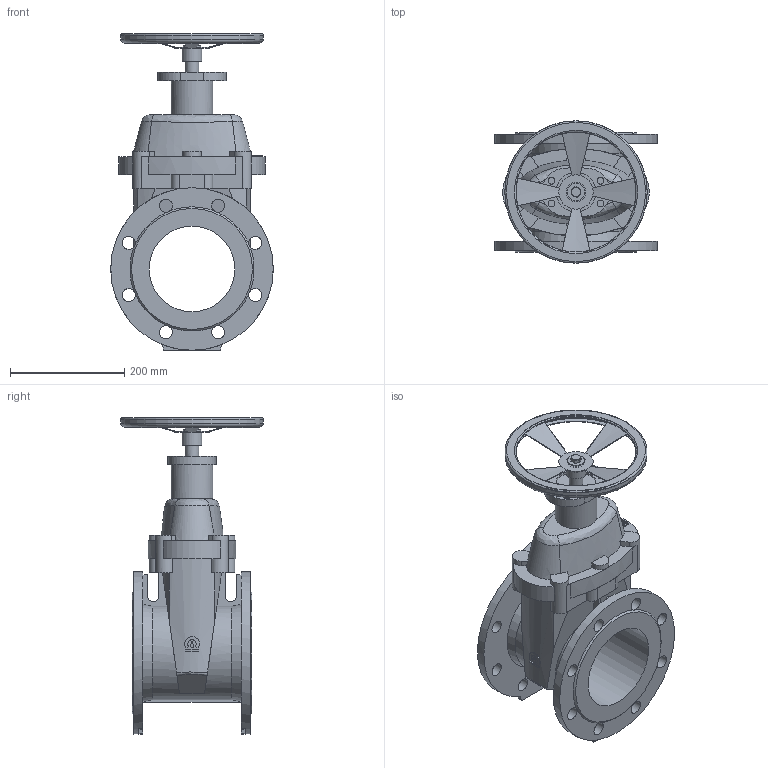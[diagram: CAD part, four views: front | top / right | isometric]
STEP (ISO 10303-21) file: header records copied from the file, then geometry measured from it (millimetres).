
FILE_DESCRIPTION(('STEP AP203'), '1');
FILE_NAME('Çàäâèæêà 47GV.M DN150 ñ ìàõîâèêîì', '', ('UNSPECIFIED'), ('UNSPECIFIED'), 'ASCON STEP Converter 1.6', 'ASCON Math Kernel', '');
FILE_SCHEMA(('CONFIG_CONTROL_DESIGN'));
Length unit declared in the file: millimetre
Bounding box: 285 x 250 x 556 mm (x, y, z)
Volume: 7134357.2 mm3; surface area: 689700.6 mm2
Topology: 1 solids, 1 shells, 252 faces, 719 edges, 464 vertices
Faces by surface type: plane 126, cylinder 92, cone 18, bspline 10, torus 6
Full cylindrical faces by diameter (mm): 12 x4, 23 x16, 24 x1, 30 x1, 35 x1, 70 x1, 73 x1, 150 x1, 213 x1, 247 x1, 250 x1, 285 x2
Entity records: 14206 total; most frequent: CARTESIAN_POINT 5722, ORIENTED_EDGE 1352, DIRECTION 1306, EDGE_CURVE 676, AXIS2_PLACEMENT_3D 507, VERTEX_POINT 464, EDGE_LOOP 340, LINE 292
